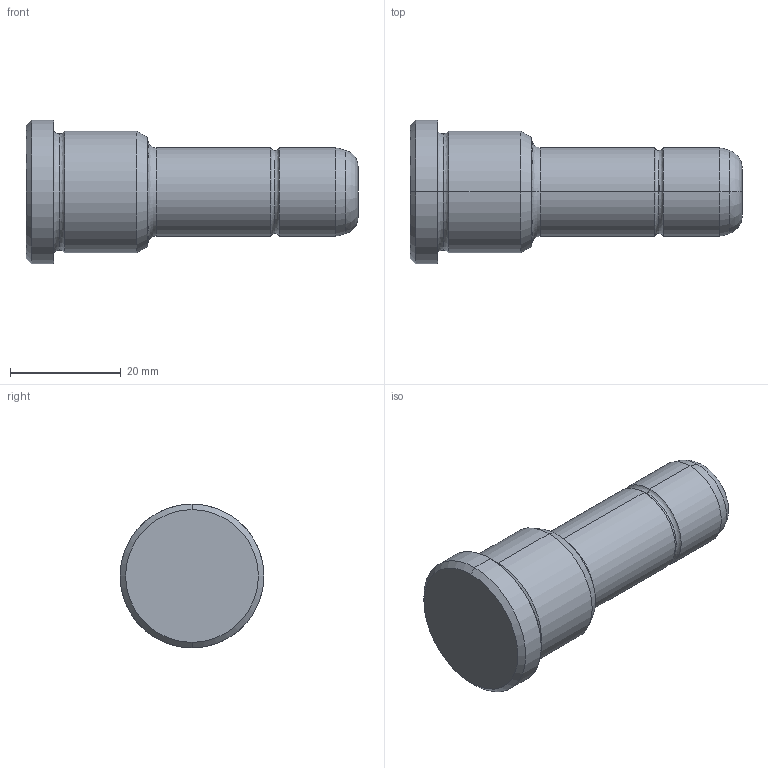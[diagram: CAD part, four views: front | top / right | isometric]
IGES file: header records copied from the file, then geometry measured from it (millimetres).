
Start section: START RECORD GO HERE.
Global section: file name: 351-16X22X60.igs; native system: DASSAULT SYSTEMES CATIA V5 R20 - www.3ds.com; preprocessor: CATIA Version 5 Release 20 ; author: Utente; organization: NB04-ASUS; date: 20210818.125901; units: millimetre
Bounding box: 60 x 26 x 26 mm (x, y, z)
Surface area: 4358.5 mm2 (no closed solid volume)
Topology: 0 solids, 0 shells, 30 faces, 172 edges, 172 vertices
Faces by surface type: revolution 26, plane 4
